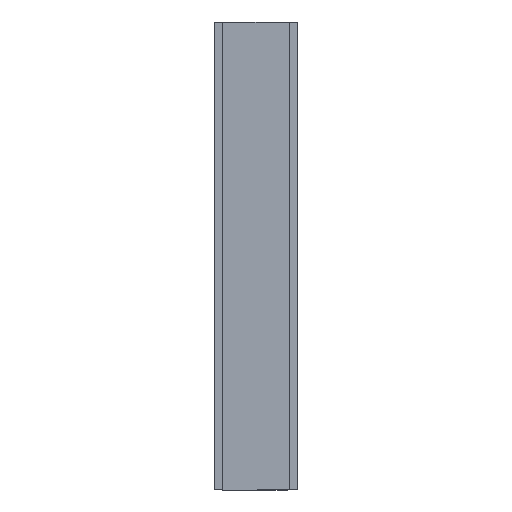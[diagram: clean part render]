
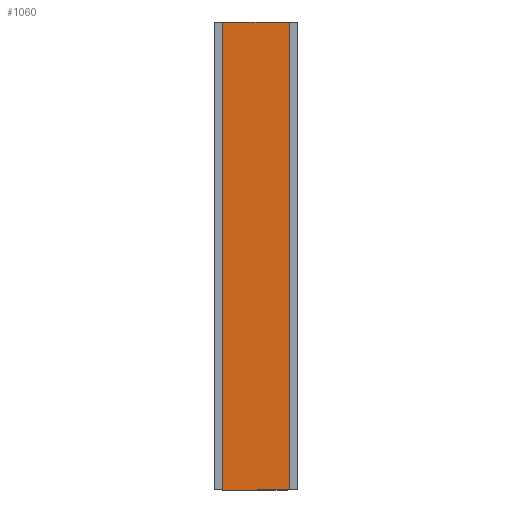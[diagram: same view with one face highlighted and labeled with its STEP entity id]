
A CAD part, front view. The second image highlights one B-rep face of the part: STEP entity #1060.
In plain terms, the highlighted planar face has unit normal (0, -1, 0).
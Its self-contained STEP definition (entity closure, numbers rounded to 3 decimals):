
#23 = DIRECTION ( 'NONE',  ( 1., 0., 0. ) ) ;
#53 = AXIS2_PLACEMENT_3D ( 'NONE', #744, #1269, #115 ) ;
#58 = CARTESIAN_POINT ( 'NONE',  ( 76.575, 0., 0. ) ) ;
#65 = ORIENTED_EDGE ( 'NONE', *, *, #902, .T. ) ;
#110 = DIRECTION ( 'NONE',  ( 0., 0., 1. ) ) ;
#115 = DIRECTION ( 'NONE',  ( 0., 0., -1. ) ) ;
#188 = LINE ( 'NONE', #595, #958 ) ;
#204 = ORIENTED_EDGE ( 'NONE', *, *, #719, .F. ) ;
#246 = CARTESIAN_POINT ( 'NONE',  ( 0., 0., 0. ) ) ;
#276 = VERTEX_POINT ( 'NONE', #58 ) ;
#279 = CARTESIAN_POINT ( 'NONE',  ( 76.575, 0., -460. ) ) ;
#296 = ORIENTED_EDGE ( 'NONE', *, *, #840, .T. ) ;
#357 = CARTESIAN_POINT ( 'NONE',  ( 11.575, 0., 0. ) ) ;
#375 = VERTEX_POINT ( 'NONE', #357 ) ;
#438 = FACE_OUTER_BOUND ( 'NONE', #1171, .T. ) ;
#460 = LINE ( 'NONE', #246, #1081 ) ;
#510 = DIRECTION ( 'NONE',  ( 1., 0., 0. ) ) ;
#527 = ORIENTED_EDGE ( 'NONE', *, *, #975, .F. ) ;
#595 = CARTESIAN_POINT ( 'NONE',  ( 11.575, 0., -460. ) ) ;
#708 = CARTESIAN_POINT ( 'NONE',  ( 0., 0., -460. ) ) ;
#719 = EDGE_CURVE ( 'NONE', #375, #276, #460, .T. ) ;
#738 = PLANE ( 'NONE',  #53 ) ;
#744 = CARTESIAN_POINT ( 'NONE',  ( 0., 0., -460. ) ) ;
#775 = CARTESIAN_POINT ( 'NONE',  ( 11.575, 0., -460. ) ) ;
#840 = EDGE_CURVE ( 'NONE', #1266, #897, #929, .T. ) ;
#897 = VERTEX_POINT ( 'NONE', #279 ) ;
#902 = EDGE_CURVE ( 'NONE', #897, #276, #1337, .T. ) ;
#929 = LINE ( 'NONE', #708, #1282 ) ;
#958 = VECTOR ( 'NONE', #110, 1000. ) ;
#975 = EDGE_CURVE ( 'NONE', #1266, #375, #188, .T. ) ;
#1006 = CARTESIAN_POINT ( 'NONE',  ( 76.575, 0., -460. ) ) ;
#1021 = VECTOR ( 'NONE', #1125, 1000. ) ;
#1060 = ADVANCED_FACE ( 'NONE', ( #438 ), #738, .T. ) ;
#1081 = VECTOR ( 'NONE', #23, 1000. ) ;
#1125 = DIRECTION ( 'NONE',  ( 0., 0., 1. ) ) ;
#1171 = EDGE_LOOP ( 'NONE', ( #527, #296, #65, #204 ) ) ;
#1266 = VERTEX_POINT ( 'NONE', #775 ) ;
#1269 = DIRECTION ( 'NONE',  ( 0., -1., 0. ) ) ;
#1282 = VECTOR ( 'NONE', #510, 1000. ) ;
#1337 = LINE ( 'NONE', #1006, #1021 ) ;
